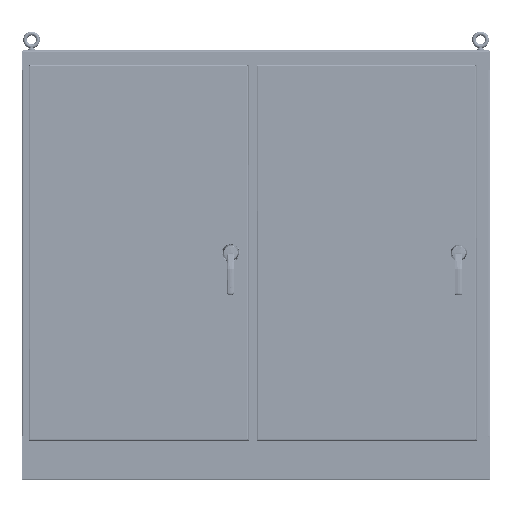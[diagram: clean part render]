
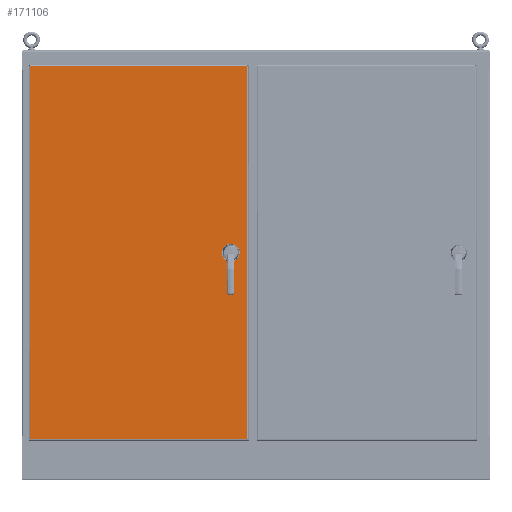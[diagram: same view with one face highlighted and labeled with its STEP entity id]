
A CAD part, top view. The second image highlights one B-rep face of the part: STEP entity #171106.
In plain terms, the highlighted planar face has unit normal (0, 0, 1).
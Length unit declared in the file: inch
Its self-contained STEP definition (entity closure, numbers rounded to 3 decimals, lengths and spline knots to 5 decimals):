
#169 = VECTOR ( 'NONE', #231003, 39.37008 ) ;
#1494 = AXIS2_PLACEMENT_3D ( 'NONE', #303051, #161831, #20660 ) ;
#1698 = VERTEX_POINT ( 'NONE', #305199 ) ;
#6871 = DIRECTION ( 'NONE',  ( 0., 0., 1. ) ) ;
#11917 = ORIENTED_EDGE ( 'NONE', *, *, #163629, .T. ) ;
#20540 = CIRCLE ( 'NONE', #29901, 0.1405 ) ;
#20660 = DIRECTION ( 'NONE',  ( 1., 0., 0. ) ) ;
#24203 = DIRECTION ( 'NONE',  ( 0., 0., 1. ) ) ;
#25615 = DIRECTION ( 'NONE',  ( -1., 0., 0. ) ) ;
#26575 = DIRECTION ( 'NONE',  ( 1., 0., 0. ) ) ;
#29901 = AXIS2_PLACEMENT_3D ( 'NONE', #248110, #106822, #271805 ) ;
#32233 = CIRCLE ( 'NONE', #1494, 0.2815 ) ;
#33149 = DIRECTION ( 'NONE',  ( 0., 0., 1. ) ) ;
#36398 = CARTESIAN_POINT ( 'NONE',  ( -18.214, 31.287, 0.12 ) ) ;
#39535 = ORIENTED_EDGE ( 'NONE', *, *, #44368, .F. ) ;
#41844 = VECTOR ( 'NONE', #26575, 39.37008 ) ;
#44368 = EDGE_CURVE ( 'NONE', #101893, #106632, #64038, .T. ) ;
#49011 = AXIS2_PLACEMENT_3D ( 'NONE', #174354, #33149, #197998 ) ;
#53044 = VERTEX_POINT ( 'NONE', #181804 ) ;
#55898 = CARTESIAN_POINT ( 'NONE',  ( 18.214, 31.287, 0.12 ) ) ;
#56805 = VERTEX_POINT ( 'NONE', #55898 ) ;
#64038 = CIRCLE ( 'NONE', #199385, 0.1405 ) ;
#66154 = CARTESIAN_POINT ( 'NONE',  ( -18.214, 31.527, 0.12 ) ) ;
#70420 = ORIENTED_EDGE ( 'NONE', *, *, #258415, .T. ) ;
#71989 = CARTESIAN_POINT ( 'NONE',  ( 333.724, 31.287, 0.12 ) ) ;
#72750 = CARTESIAN_POINT ( 'NONE',  ( 18.214, -31.527, 0.12 ) ) ;
#73203 = ORIENTED_EDGE ( 'NONE', *, *, #261227, .T. ) ;
#79145 = ORIENTED_EDGE ( 'NONE', *, *, #196969, .T. ) ;
#83223 = CIRCLE ( 'NONE', #219602, 0.1405 ) ;
#84259 = CARTESIAN_POINT ( 'NONE',  ( 14.548, 0., 0.12 ) ) ;
#88667 = AXIS2_PLACEMENT_3D ( 'NONE', #148020, #6871, #171707 ) ;
#90557 = EDGE_CURVE ( 'NONE', #1698, #256943, #196014, .T. ) ;
#90879 = FACE_BOUND ( 'NONE', #305451, .T. ) ;
#101181 = CARTESIAN_POINT ( 'NONE',  ( 15.7355, 0., 0.12 ) ) ;
#101893 = VERTEX_POINT ( 'NONE', #235364 ) ;
#104914 = AXIS2_PLACEMENT_3D ( 'NONE', #163233, #210595, #281776 ) ;
#106632 = VERTEX_POINT ( 'NONE', #110886 ) ;
#106822 = DIRECTION ( 'NONE',  ( 0., 0., 1. ) ) ;
#107938 = DIRECTION ( 'NONE',  ( 1., 0., 0. ) ) ;
#110886 = CARTESIAN_POINT ( 'NONE',  ( 14.6885, 0., 0.12 ) ) ;
#111841 = LINE ( 'NONE', #192413, #41844 ) ;
#114514 = CIRCLE ( 'NONE', #88667, 0.2815 ) ;
#116800 = PLANE ( 'NONE',  #104914 ) ;
#118121 = LINE ( 'NONE', #66154, #169 ) ;
#120501 = EDGE_LOOP ( 'NONE', ( #214556, #39535 ) ) ;
#133420 = VERTEX_POINT ( 'NONE', #275238 ) ;
#135776 = CARTESIAN_POINT ( 'NONE',  ( 16.5005, 0., 0.12 ) ) ;
#146614 = EDGE_CURVE ( 'NONE', #173969, #133420, #114514, .T. ) ;
#148020 = CARTESIAN_POINT ( 'NONE',  ( 15.454, 0., 0.12 ) ) ;
#153664 = FACE_BOUND ( 'NONE', #120501, .T. ) ;
#159538 = EDGE_LOOP ( 'NONE', ( #258389, #221137 ) ) ;
#161831 = DIRECTION ( 'NONE',  ( 0., 0., 1. ) ) ;
#163233 = CARTESIAN_POINT ( 'NONE',  ( -18.454, 31.527, 0.12 ) ) ;
#163629 = EDGE_CURVE ( 'NONE', #56805, #193044, #294156, .T. ) ;
#165368 = CARTESIAN_POINT ( 'NONE',  ( 14.548, 0., 0.12 ) ) ;
#166316 = ORIENTED_EDGE ( 'NONE', *, *, #146614, .F. ) ;
#166512 = DIRECTION ( 'NONE',  ( 0., 1., 0. ) ) ;
#171106 = ADVANCED_FACE ( 'NONE', ( #153664, #286481, #90879, #216348 ), #116800, .F. ) ;
#171402 = VECTOR ( 'NONE', #166512, 39.37008 ) ;
#171707 = DIRECTION ( 'NONE',  ( 1., 0., 0. ) ) ;
#171861 = EDGE_CURVE ( 'NONE', #106632, #101893, #83223, .T. ) ;
#173969 = VERTEX_POINT ( 'NONE', #101181 ) ;
#174354 = CARTESIAN_POINT ( 'NONE',  ( 16.36, 0., 0.12 ) ) ;
#181191 = ORIENTED_EDGE ( 'NONE', *, *, #200968, .F. ) ;
#181804 = CARTESIAN_POINT ( 'NONE',  ( -18.214, -31.287, 0.12 ) ) ;
#189038 = DIRECTION ( 'NONE',  ( 1., 0., 0. ) ) ;
#189627 = CARTESIAN_POINT ( 'NONE',  ( 18.214, -31.287, 0.12 ) ) ;
#192413 = CARTESIAN_POINT ( 'NONE',  ( -18.454, -31.287, 0.12 ) ) ;
#193044 = VERTEX_POINT ( 'NONE', #36398 ) ;
#196014 = CIRCLE ( 'NONE', #49011, 0.1405 ) ;
#196969 = EDGE_CURVE ( 'NONE', #292714, #56805, #226669, .T. ) ;
#197998 = DIRECTION ( 'NONE',  ( 1., 0., 0. ) ) ;
#199385 = AXIS2_PLACEMENT_3D ( 'NONE', #165368, #24203, #189038 ) ;
#200968 = EDGE_CURVE ( 'NONE', #133420, #173969, #32233, .T. ) ;
#210595 = DIRECTION ( 'NONE',  ( 0., 0., -1. ) ) ;
#214556 = ORIENTED_EDGE ( 'NONE', *, *, #171861, .F. ) ;
#216348 = FACE_OUTER_BOUND ( 'NONE', #267061, .T. ) ;
#219602 = AXIS2_PLACEMENT_3D ( 'NONE', #84259, #249247, #107938 ) ;
#221137 = ORIENTED_EDGE ( 'NONE', *, *, #90557, .F. ) ;
#226669 = LINE ( 'NONE', #72750, #171402 ) ;
#231003 = DIRECTION ( 'NONE',  ( 0., -1., 0. ) ) ;
#231354 = VECTOR ( 'NONE', #25615, 39.37008 ) ;
#232724 = EDGE_CURVE ( 'NONE', #256943, #1698, #20540, .T. ) ;
#235364 = CARTESIAN_POINT ( 'NONE',  ( 14.4075, 0., 0.12 ) ) ;
#248110 = CARTESIAN_POINT ( 'NONE',  ( 16.36, 0., 0.12 ) ) ;
#249247 = DIRECTION ( 'NONE',  ( 0., 0., 1. ) ) ;
#256943 = VERTEX_POINT ( 'NONE', #135776 ) ;
#258389 = ORIENTED_EDGE ( 'NONE', *, *, #232724, .F. ) ;
#258415 = EDGE_CURVE ( 'NONE', #53044, #292714, #111841, .T. ) ;
#261227 = EDGE_CURVE ( 'NONE', #193044, #53044, #118121, .T. ) ;
#267061 = EDGE_LOOP ( 'NONE', ( #70420, #79145, #11917, #73203 ) ) ;
#271805 = DIRECTION ( 'NONE',  ( 1., 0., 0. ) ) ;
#275238 = CARTESIAN_POINT ( 'NONE',  ( 15.1725, 0., 0.12 ) ) ;
#281776 = DIRECTION ( 'NONE',  ( -1., 0., 0. ) ) ;
#286481 = FACE_BOUND ( 'NONE', #159538, .T. ) ;
#292714 = VERTEX_POINT ( 'NONE', #189627 ) ;
#294156 = LINE ( 'NONE', #71989, #231354 ) ;
#303051 = CARTESIAN_POINT ( 'NONE',  ( 15.454, 0., 0.12 ) ) ;
#305199 = CARTESIAN_POINT ( 'NONE',  ( 16.2195, 0., 0.12 ) ) ;
#305451 = EDGE_LOOP ( 'NONE', ( #166316, #181191 ) ) ;
